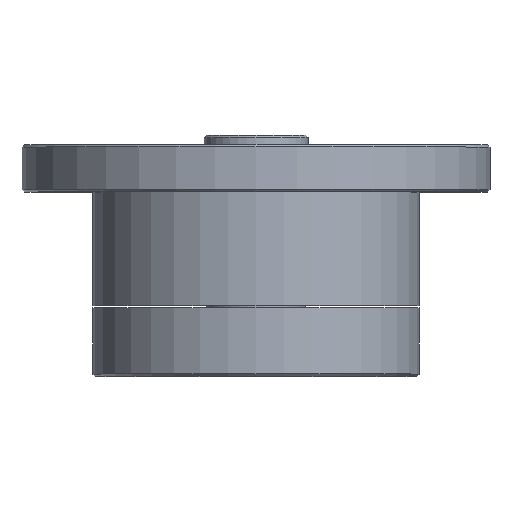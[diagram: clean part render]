
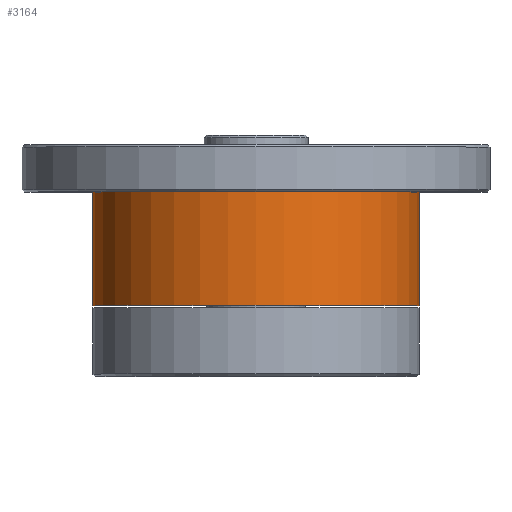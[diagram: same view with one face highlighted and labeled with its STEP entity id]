
A CAD part, top view. The second image highlights one B-rep face of the part: STEP entity #3164.
In plain terms, the highlighted cylindrical face has radius 34.5 mm (diameter 69 mm), a partial arc.
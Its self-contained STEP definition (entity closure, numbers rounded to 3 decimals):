
#123 = DIRECTION ( 'NONE',  ( 1., 0., 0. ) ) ;
#230 = CARTESIAN_POINT ( 'NONE',  ( 34.5, -34., 0. ) ) ;
#279 = EDGE_CURVE ( 'NONE', #1507, #1371, #3718, .T. ) ;
#349 = CARTESIAN_POINT ( 'NONE',  ( 0., -49., 0. ) ) ;
#386 = DIRECTION ( 'NONE',  ( 1., 0., 0. ) ) ;
#396 = DIRECTION ( 'NONE',  ( 0., -1., 0. ) ) ;
#423 = VECTOR ( 'NONE', #2048, 1000. ) ;
#854 = AXIS2_PLACEMENT_3D ( 'NONE', #3394, #921, #123 ) ;
#921 = DIRECTION ( 'NONE',  ( 0., -1., 0. ) ) ;
#924 = CIRCLE ( 'NONE', #854, 34.5 ) ;
#1157 = CARTESIAN_POINT ( 'NONE',  ( -34.5, -34., 0. ) ) ;
#1193 = CARTESIAN_POINT ( 'NONE',  ( 34.5, -10., 0. ) ) ;
#1367 = DIRECTION ( 'NONE',  ( 0., -1., 0. ) ) ;
#1371 = VERTEX_POINT ( 'NONE', #3826 ) ;
#1425 = DIRECTION ( 'NONE',  ( 1., 0., 0. ) ) ;
#1507 = VERTEX_POINT ( 'NONE', #1193 ) ;
#1677 = AXIS2_PLACEMENT_3D ( 'NONE', #2959, #2905, #386 ) ;
#2048 = DIRECTION ( 'NONE',  ( 0., -1., 0. ) ) ;
#2080 = LINE ( 'NONE', #3232, #3478 ) ;
#2177 = EDGE_CURVE ( 'NONE', #2680, #4332, #924, .T. ) ;
#2415 = EDGE_CURVE ( 'NONE', #1371, #4332, #2080, .T. ) ;
#2451 = CARTESIAN_POINT ( 'NONE',  ( 34.5, -49., 0. ) ) ;
#2579 = ORIENTED_EDGE ( 'NONE', *, *, #2415, .T. ) ;
#2680 = VERTEX_POINT ( 'NONE', #230 ) ;
#2905 = DIRECTION ( 'NONE',  ( 0., -1., 0. ) ) ;
#2959 = CARTESIAN_POINT ( 'NONE',  ( 0., -10., 0. ) ) ;
#3164 = ADVANCED_FACE ( 'NONE', ( #4137 ), #4251, .T. ) ;
#3232 = CARTESIAN_POINT ( 'NONE',  ( -34.5, -49., 0. ) ) ;
#3276 = AXIS2_PLACEMENT_3D ( 'NONE', #349, #396, #1425 ) ;
#3394 = CARTESIAN_POINT ( 'NONE',  ( 0., -34., 0. ) ) ;
#3478 = VECTOR ( 'NONE', #1367, 1000. ) ;
#3718 = CIRCLE ( 'NONE', #1677, 34.5 ) ;
#3826 = CARTESIAN_POINT ( 'NONE',  ( -34.5, -10., 0. ) ) ;
#4016 = ORIENTED_EDGE ( 'NONE', *, *, #2177, .F. ) ;
#4108 = EDGE_CURVE ( 'NONE', #1507, #2680, #4239, .T. ) ;
#4137 = FACE_OUTER_BOUND ( 'NONE', #4633, .T. ) ;
#4239 = LINE ( 'NONE', #2451, #423 ) ;
#4251 = CYLINDRICAL_SURFACE ( 'NONE', #3276, 34.5 ) ;
#4332 = VERTEX_POINT ( 'NONE', #1157 ) ;
#4527 = ORIENTED_EDGE ( 'NONE', *, *, #4108, .F. ) ;
#4625 = ORIENTED_EDGE ( 'NONE', *, *, #279, .T. ) ;
#4633 = EDGE_LOOP ( 'NONE', ( #4625, #2579, #4016, #4527 ) ) ;
